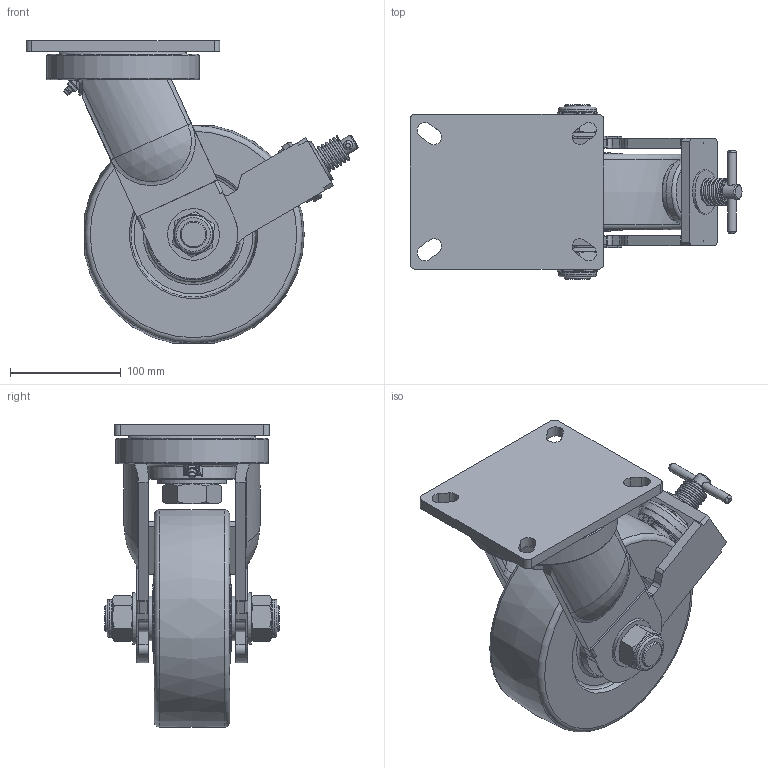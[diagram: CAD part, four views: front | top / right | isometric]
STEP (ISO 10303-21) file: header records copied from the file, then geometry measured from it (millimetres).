
FILE_DESCRIPTION((''),'2;1');
FILE_NAME('C:\Documents and Settings\Administrator\바탕 화면\뜸부기\신제품 진행_GL_GLH_GXT\GXT-200BSF HUD\GXT-200-BSF-HUD.stp','2011-06-23T09:19:44',('Administrator'),(''),'Autodesk Inventor 2009','Autodesk Inventor 2009','');
FILE_SCHEMA(('AUTOMOTIVE_DESIGN { 1 0 10303 214 1 1 1 1 }'));
Length unit declared in the file: millimetre
Products named in the file (1): GXT-200-BSF-HUD
Bounding box: 299.88 x 158 x 273.33 mm (x, y, z)
Volume: 3155510.2 mm3; surface area: 378661.5 mm2
Topology: 16 solids, 17 shells, 523 faces, 1240 edges, 789 vertices
Faces by surface type: plane 239, cylinder 150, bspline 53, cone 46, torus 31, sphere 4
Full cylindrical faces by diameter (mm): 1 x4, 5 x1, 6 x1, 8 x2, 8.2 x1, 11.7 x1, 12.2 x2, 13 x1, 14 x1, 16.2 x1, 18.2 x1, 20 x1, 21 x2, 22 x2, 23.5 x1, 24 x6, 24.3 x2, 24.5 x2, 26 x2, 27 x1, 30 x6, 30.5 x1, 32 x1, 34.4 x2, 35 x3, 40 x3, 40.667 x4, 42 x1, 46.7 x2, 48.5 x1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
Entity records: 19016 total; most frequent: CARTESIAN_POINT 7869, DIRECTION 2327, ORIENTED_EDGE 2036, EDGE_CURVE 1018, AXIS2_PLACEMENT_3D 936, EDGE_LOOP 786, VERTEX_POINT 739, FACE_OUTER_BOUND 523
